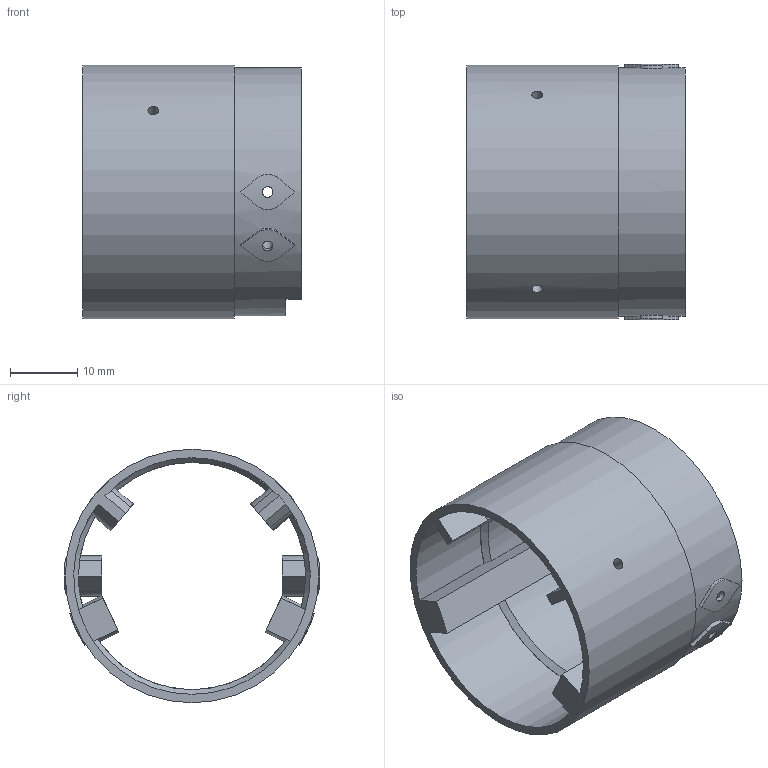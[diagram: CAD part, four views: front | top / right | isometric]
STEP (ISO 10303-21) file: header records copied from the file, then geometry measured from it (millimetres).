
FILE_DESCRIPTION(('SkyG Speed 90B - revision C6B-9 - 2026-10-11','TC-tail-coupler'),'2;1');
FILE_NAME('TC-tail-coupler_C6B-9','2026-10-10T23:18:28',('Author'),( 'Open CASCADE'),'Open CASCADE STEP processor 7.9','Open CASCADE 7.9' ,'Unknown');
FILE_SCHEMA(('AUTOMOTIVE_DESIGN { 1 0 10303 214 1 1 1 1 }'));
Length unit declared in the file: millimetre
Products named in the file (1): TC-tail-coupler C6B-9
Bounding box: 32.5 x 38 x 37.7 mm (x, y, z)
Volume: 7283.9 mm3; surface area: 8771.1 mm2
Topology: 1 solids, 1 shells, 108 faces, 309 edges, 203 vertices
Faces by surface type: plane 63, cylinder 41, cone 4
Full cylindrical faces by diameter (mm): 1.6 x10, 33.8 x1, 37 x1, 37.7 x1
Entity records: 10377 total; most frequent: CARTESIAN_POINT 4631, DIRECTION 954, ORIENTED_EDGE 618, PCURVE 618, DEFINITIONAL_REPRESENTATION 618, LINE 394, VECTOR 394, EDGE_CURVE 309
